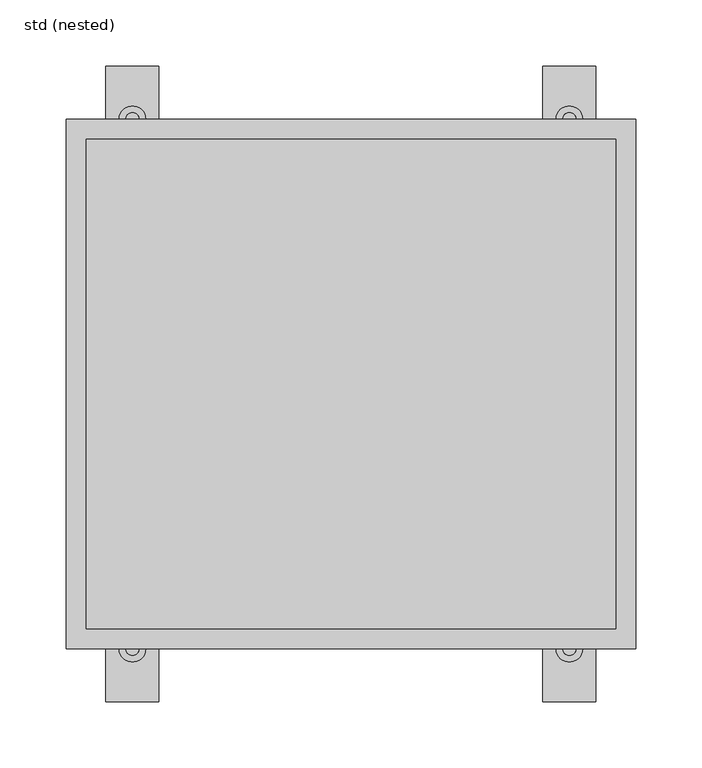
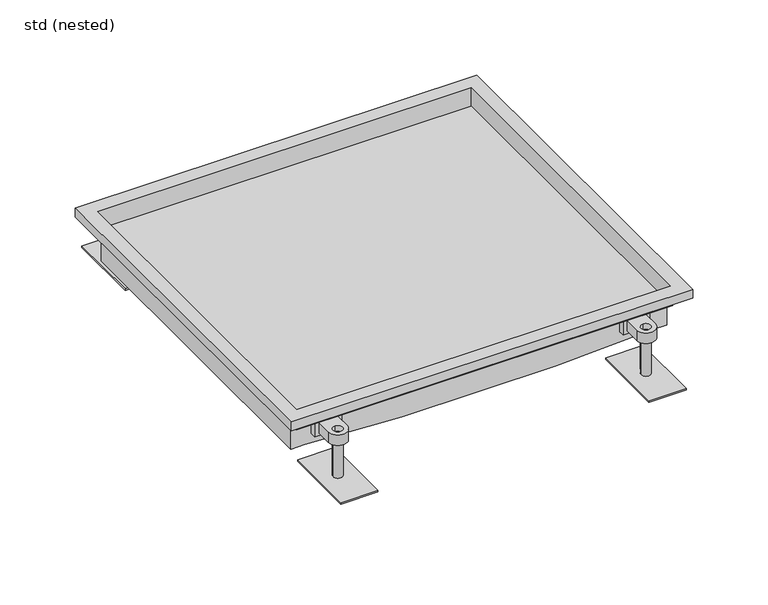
"""IFC4 building model written with IfcOpenShell, lengths in millimetres: sanitary terminal geometry, ZZZ_do not use_PF_ST_UN_hygienic box channel_ACO : std (nested)."""

from ifc_helpers import new_model, si_unit, point, frame, frame_2d, origin, place, context, project, spatial, polyline, circle_curve, trimmed, segment, composite_curve, outline, extrude, faceted_brep, source, transform, mapped, element, save
from ifc_brep_helpers import plane_surface, cylinder_surface, advanced_brep


def std_nested_92ae71c6(model_context):
    return source(origin(), model_context, "Body", "SolidModel", [
        extrude(outline(composite_curve([segment(polyline([(175.0, 182.5), (155.0, 182.5), (155.0, 200.0)]), True, "CONTINUOUS"), segment(trimmed(circle_curve(frame_2d((165.0, 200.0)), 10.0), [point((155.0, 200.0))], [point((175.0, 200.0))], False, "CARTESIAN"), True, "CONTINUOUS"), segment(polyline([(175.0, 200.0), (175.0, 182.5)]), True, "CONTINUOUS")], self_intersect=False), holes=[composite_curve([segment(trimmed(circle_curve(frame_2d((165.0, 200.0)), 5.0), [point((165.0, 195.0))], [point((165.0, 205.0))], True, "CARTESIAN"), True, "CONTINUOUS"), segment(trimmed(circle_curve(frame_2d((165.0, 200.0)), 5.0), [point((165.0, 205.0))], [point((165.0, 195.0))], True, "CARTESIAN"), True, "CONTINUOUS")], self_intersect=False)]), frame((0.0, 0.0, -37.0), z_axis=(0.0, 0.0, 1.0), x_axis=(1.0, 0.0, 0.0)), (0.0, 0.0, 1.0), 12.0),
        advanced_brep(
        [(160.0, 200.0, -31.0), (170.0, 200.0, -31.0), (185.0, 160.0, -79.5), (145.0, 160.0, -79.5), (145.0, 240.0, -79.5), (185.0, 240.0, -79.5), (170.0, 200.0, -77.5), (160.0, 200.0, -77.5), (185.0, 160.0, -77.5), (185.0, 240.0, -77.5), (145.0, 240.0, -77.5), (145.0, 160.0, -77.5)],
        [
            (0, 1, circle_curve(frame((165.0, 200.0, -31.0), z_axis=(0.0, 0.0, 1.0), x_axis=(1.0, 0.0, 0.0)), 5.0)),
            (1, 0, circle_curve(frame((165.0, 200.0, -31.0), z_axis=(0.0, 0.0, 1.0), x_axis=(1.0, 0.0, 0.0)), 5.0)),
            (2, 3),
            (3, 4),
            (4, 5),
            (5, 2),
            (1, 6),
            (6, 7, circle_curve(frame((165.0, 200.0, -77.5), z_axis=(0.0, 0.0, 1.0), x_axis=(1.0, 0.0, 0.0)), 5.0)),
            (7, 0),
            (7, 6, circle_curve(frame((165.0, 200.0, -77.5), z_axis=(0.0, 0.0, 1.0), x_axis=(1.0, 0.0, 0.0)), 5.0)),
            (8, 9),
            (9, 10),
            (10, 11),
            (11, 8),
            (11, 3),
            (2, 8),
            (10, 4),
            (9, 5),
        ],
        [
            plane_surface(frame((170.0, 200.0, -31.0), z_axis=(0.0, 0.0, 1.0), x_axis=(0.0, -1.0, 0.0))),
            plane_surface(frame((170.0, 200.0, -79.5), z_axis=(0.0, 0.0, -1.0), x_axis=(0.0, 1.0, 0.0))),
            cylinder_surface(frame((165.0, 200.0, -79.5), z_axis=(0.0, 0.0, 1.0), x_axis=(1.0, 0.0, 0.0)), 5.0),
            plane_surface(frame((145.0, 160.0, -77.5), z_axis=(0.0, 0.0, 1.0), x_axis=(-1.0, 0.0, 0.0))),
            plane_surface(frame((185.0, 160.0, -77.5), z_axis=(0.0, -1.0, 0.0), x_axis=(0.0, 0.0, -1.0))),
            plane_surface(frame((145.0, 160.0, -77.5), z_axis=(-1.0, 0.0, 0.0), x_axis=(0.0, 0.0, -1.0))),
            plane_surface(frame((145.0, 240.0, -77.5), z_axis=(0.0, 1.0, 0.0), x_axis=(0.0, 0.0, -1.0))),
            plane_surface(frame((185.0, 240.0, -77.5), z_axis=(1.0, 0.0, 0.0), x_axis=(0.0, 0.0, -1.0))),
        ],
        [
            (0, [[1, 2]]),
            (1, [[3, 4, 5, 6]]),
            (2, [[7, 8, 9, -2]]),
            (2, [[-9, 10, -7, -1]]),
            (3, [[11, 12, 13, 14], [-10, -8]]),
            (4, [[15, -3, 16, -14]]),
            (5, [[17, -4, -15, -13]]),
            (6, [[18, -5, -17, -12]]),
            (7, [[-16, -6, -18, -11]]),
        ],
    ),
        extrude(outline(polyline([(179.35, 174.5), (150.65, 174.5), (150.65, 182.5), (179.35, 182.5), (179.35, 174.5)])), frame((0.0, 0.0, -40.0), z_axis=(0.0, 0.0, 1.0), x_axis=(1.0, 0.0, 0.0)), (0.0, 0.0, 1.0), 18.0),
        extrude(outline(composite_curve([segment(polyline([(175.0, -182.5), (175.0, -200.0)]), True, "CONTINUOUS"), segment(trimmed(circle_curve(frame_2d((165.0, -200.0)), 10.0), [point((175.0, -200.0))], [point((155.0, -200.0))], False, "CARTESIAN"), True, "CONTINUOUS"), segment(polyline([(155.0, -200.0), (155.0, -182.5), (175.0, -182.5)]), True, "CONTINUOUS")], self_intersect=False), holes=[composite_curve([segment(trimmed(circle_curve(frame_2d((165.0, -200.0)), 5.0), [point((165.0, -195.0))], [point((165.0, -205.0))], True, "CARTESIAN"), True, "CONTINUOUS"), segment(trimmed(circle_curve(frame_2d((165.0, -200.0)), 5.0), [point((165.0, -205.0))], [point((165.0, -195.0))], True, "CARTESIAN"), True, "CONTINUOUS")], self_intersect=False)]), frame((0.0, 0.0, -37.0), z_axis=(0.0, 0.0, 1.0), x_axis=(1.0, 0.0, 0.0)), (0.0, 0.0, 1.0), 12.0),
        advanced_brep(
        [(160.0, -200.0, -31.0), (170.0, -200.0, -31.0), (185.0, -160.0, -79.5), (185.0, -240.0, -79.5), (145.0, -240.0, -79.5), (145.0, -160.0, -79.5), (160.0, -200.0, -77.5), (170.0, -200.0, -77.5), (185.0, -160.0, -77.5), (145.0, -160.0, -77.5), (145.0, -240.0, -77.5), (185.0, -240.0, -77.5)],
        [
            (0, 1, circle_curve(frame((165.0, -200.0, -31.0), z_axis=(0.0, 0.0, 1.0), x_axis=(1.0, 0.0, 0.0)), 5.0)),
            (1, 0, circle_curve(frame((165.0, -200.0, -31.0), z_axis=(0.0, 0.0, 1.0), x_axis=(1.0, 0.0, 0.0)), 5.0)),
            (2, 3),
            (3, 4),
            (4, 5),
            (5, 2),
            (0, 6),
            (6, 7, circle_curve(frame((165.0, -200.0, -77.5), z_axis=(0.0, 0.0, 1.0), x_axis=(1.0, 0.0, 0.0)), 5.0)),
            (7, 1),
            (7, 6, circle_curve(frame((165.0, -200.0, -77.5), z_axis=(0.0, 0.0, 1.0), x_axis=(1.0, 0.0, 0.0)), 5.0)),
            (8, 9),
            (9, 10),
            (10, 11),
            (11, 8),
            (8, 2),
            (5, 9),
            (4, 10),
            (3, 11),
        ],
        [
            plane_surface(frame((170.0, -200.0, -31.0), z_axis=(0.0, 0.0, 1.0), x_axis=(0.0, 1.0, 0.0))),
            plane_surface(frame((170.0, -200.0, -79.5), z_axis=(0.0, 0.0, -1.0), x_axis=(0.0, -1.0, 0.0))),
            cylinder_surface(frame((165.0, -200.0, -79.5), z_axis=(0.0, 0.0, 1.0), x_axis=(1.0, 0.0, 0.0)), 5.0),
            plane_surface(frame((145.0, -160.0, -77.5), z_axis=(0.0, 0.0, 1.0), x_axis=(-1.0, 0.0, 0.0))),
            plane_surface(frame((185.0, -160.0, -77.5), z_axis=(0.0, 1.0, 0.0), x_axis=(0.0, 0.0, -1.0))),
            plane_surface(frame((145.0, -160.0, -77.5), z_axis=(-1.0, 0.0, 0.0), x_axis=(0.0, 0.0, -1.0))),
            plane_surface(frame((145.0, -240.0, -77.5), z_axis=(0.0, -1.0, 0.0), x_axis=(0.0, 0.0, -1.0))),
            plane_surface(frame((185.0, -240.0, -77.5), z_axis=(1.0, 0.0, 0.0), x_axis=(0.0, 0.0, -1.0))),
        ],
        [
            (0, [[1, 2]]),
            (1, [[3, 4, 5, 6]]),
            (2, [[-1, 7, 8, 9]]),
            (2, [[-2, -9, 10, -7]]),
            (3, [[11, 12, 13, 14], [-8, -10]]),
            (4, [[-11, 15, -6, 16]]),
            (5, [[-12, -16, -5, 17]]),
            (6, [[-13, -17, -4, 18]]),
            (7, [[-14, -18, -3, -15]]),
        ],
    ),
        extrude(outline(polyline([(179.35, -174.5), (179.35, -182.5), (150.65, -182.5), (150.65, -174.5), (179.35, -174.5)])), frame((0.0, 0.0, -40.0), z_axis=(0.0, 0.0, 1.0), x_axis=(1.0, 0.0, 0.0)), (0.0, 0.0, 1.0), 18.0),
        extrude(outline(composite_curve([segment(polyline([(-155.0, 182.5), (-175.0, 182.5), (-175.0, 200.0)]), True, "CONTINUOUS"), segment(trimmed(circle_curve(frame_2d((-165.0, 200.0)), 10.0), [point((-175.0, 200.0))], [point((-155.0, 200.0))], False, "CARTESIAN"), True, "CONTINUOUS"), segment(polyline([(-155.0, 200.0), (-155.0, 182.5)]), True, "CONTINUOUS")], self_intersect=False), holes=[composite_curve([segment(trimmed(circle_curve(frame_2d((-165.0, 200.0)), 5.0), [point((-165.0, 195.0))], [point((-165.0, 205.0))], True, "CARTESIAN"), True, "CONTINUOUS"), segment(trimmed(circle_curve(frame_2d((-165.0, 200.0)), 5.0), [point((-165.0, 205.0))], [point((-165.0, 195.0))], True, "CARTESIAN"), True, "CONTINUOUS")], self_intersect=False)]), frame((0.0, 0.0, -37.0), z_axis=(0.0, 0.0, 1.0), x_axis=(1.0, 0.0, 0.0)), (0.0, 0.0, 1.0), 12.0),
        advanced_brep(
        [(-170.0, 200.0, -31.0), (-160.0, 200.0, -31.0), (-145.0, 160.0, -79.5), (-185.0, 160.0, -79.5), (-185.0, 240.0, -79.5), (-145.0, 240.0, -79.5), (-160.0, 200.0, -77.5), (-170.0, 200.0, -77.5), (-145.0, 160.0, -77.5), (-145.0, 240.0, -77.5), (-185.0, 240.0, -77.5), (-185.0, 160.0, -77.5)],
        [
            (0, 1, circle_curve(frame((-165.0, 200.0, -31.0), z_axis=(0.0, 0.0, 1.0), x_axis=(1.0, 0.0, 0.0)), 5.0)),
            (1, 0, circle_curve(frame((-165.0, 200.0, -31.0), z_axis=(0.0, 0.0, 1.0), x_axis=(1.0, 0.0, 0.0)), 5.0)),
            (2, 3),
            (3, 4),
            (4, 5),
            (5, 2),
            (1, 6),
            (6, 7, circle_curve(frame((-165.0, 200.0, -77.5), z_axis=(0.0, 0.0, 1.0), x_axis=(1.0, 0.0, 0.0)), 5.0)),
            (7, 0),
            (7, 6, circle_curve(frame((-165.0, 200.0, -77.5), z_axis=(0.0, 0.0, 1.0), x_axis=(1.0, 0.0, 0.0)), 5.0)),
            (8, 9),
            (9, 10),
            (10, 11),
            (11, 8),
            (11, 3),
            (2, 8),
            (10, 4),
            (9, 5),
        ],
        [
            plane_surface(frame((-160.0, 200.0, -31.0), z_axis=(0.0, 0.0, 1.0), x_axis=(0.0, -1.0, 0.0))),
            plane_surface(frame((-160.0, 200.0, -79.5), z_axis=(0.0, 0.0, -1.0), x_axis=(0.0, 1.0, 0.0))),
            cylinder_surface(frame((-165.0, 200.0, -79.5), z_axis=(0.0, 0.0, 1.0), x_axis=(1.0, 0.0, 0.0)), 5.0),
            plane_surface(frame((-185.0, 160.0, -77.5), z_axis=(0.0, 0.0, 1.0), x_axis=(-1.0, 0.0, 0.0))),
            plane_surface(frame((-145.0, 160.0, -77.5), z_axis=(0.0, -1.0, 0.0), x_axis=(0.0, 0.0, -1.0))),
            plane_surface(frame((-185.0, 160.0, -77.5), z_axis=(-1.0, 0.0, 0.0), x_axis=(0.0, 0.0, -1.0))),
            plane_surface(frame((-185.0, 240.0, -77.5), z_axis=(0.0, 1.0, 0.0), x_axis=(0.0, 0.0, -1.0))),
            plane_surface(frame((-145.0, 240.0, -77.5), z_axis=(1.0, 0.0, 0.0), x_axis=(0.0, 0.0, -1.0))),
        ],
        [
            (0, [[1, 2]]),
            (1, [[3, 4, 5, 6]]),
            (2, [[7, 8, 9, -2]]),
            (2, [[-9, 10, -7, -1]]),
            (3, [[11, 12, 13, 14], [-10, -8]]),
            (4, [[15, -3, 16, -14]]),
            (5, [[17, -4, -15, -13]]),
            (6, [[18, -5, -17, -12]]),
            (7, [[-16, -6, -18, -11]]),
        ],
    ),
        extrude(outline(polyline([(-150.65, 174.5), (-179.35, 174.5), (-179.35, 182.5), (-150.65, 182.5), (-150.65, 174.5)])), frame((0.0, 0.0, -40.0), z_axis=(0.0, 0.0, 1.0), x_axis=(1.0, 0.0, 0.0)), (0.0, 0.0, 1.0), 18.0),
        extrude(outline(composite_curve([segment(polyline([(-155.0, -182.5), (-155.0, -200.0)]), True, "CONTINUOUS"), segment(trimmed(circle_curve(frame_2d((-165.0, -200.0)), 10.0), [point((-155.0, -200.0))], [point((-175.0, -200.0))], False, "CARTESIAN"), True, "CONTINUOUS"), segment(polyline([(-175.0, -200.0), (-175.0, -182.5), (-155.0, -182.5)]), True, "CONTINUOUS")], self_intersect=False), holes=[composite_curve([segment(trimmed(circle_curve(frame_2d((-165.0, -200.0)), 5.0), [point((-165.0, -195.0))], [point((-165.0, -205.0))], True, "CARTESIAN"), True, "CONTINUOUS"), segment(trimmed(circle_curve(frame_2d((-165.0, -200.0)), 5.0), [point((-165.0, -205.0))], [point((-165.0, -195.0))], True, "CARTESIAN"), True, "CONTINUOUS")], self_intersect=False)]), frame((0.0, 0.0, -37.0), z_axis=(0.0, 0.0, 1.0), x_axis=(1.0, 0.0, 0.0)), (0.0, 0.0, 1.0), 12.0),
        advanced_brep(
        [(-170.0, -200.0, -31.0), (-160.0, -200.0, -31.0), (-145.0, -160.0, -79.5), (-145.0, -240.0, -79.5), (-185.0, -240.0, -79.5), (-185.0, -160.0, -79.5), (-170.0, -200.0, -77.5), (-160.0, -200.0, -77.5), (-145.0, -160.0, -77.5), (-185.0, -160.0, -77.5), (-185.0, -240.0, -77.5), (-145.0, -240.0, -77.5)],
        [
            (0, 1, circle_curve(frame((-165.0, -200.0, -31.0), z_axis=(0.0, 0.0, 1.0), x_axis=(1.0, 0.0, 0.0)), 5.0)),
            (1, 0, circle_curve(frame((-165.0, -200.0, -31.0), z_axis=(0.0, 0.0, 1.0), x_axis=(1.0, 0.0, 0.0)), 5.0)),
            (2, 3),
            (3, 4),
            (4, 5),
            (5, 2),
            (0, 6),
            (6, 7, circle_curve(frame((-165.0, -200.0, -77.5), z_axis=(0.0, 0.0, 1.0), x_axis=(1.0, 0.0, 0.0)), 5.0)),
            (7, 1),
            (7, 6, circle_curve(frame((-165.0, -200.0, -77.5), z_axis=(0.0, 0.0, 1.0), x_axis=(1.0, 0.0, 0.0)), 5.0)),
            (8, 9),
            (9, 10),
            (10, 11),
            (11, 8),
            (8, 2),
            (5, 9),
            (4, 10),
            (3, 11),
        ],
        [
            plane_surface(frame((-160.0, -200.0, -31.0), z_axis=(0.0, 0.0, 1.0), x_axis=(0.0, 1.0, 0.0))),
            plane_surface(frame((-160.0, -200.0, -79.5), z_axis=(0.0, 0.0, -1.0), x_axis=(0.0, -1.0, 0.0))),
            cylinder_surface(frame((-165.0, -200.0, -79.5), z_axis=(0.0, 0.0, 1.0), x_axis=(1.0, 0.0, 0.0)), 5.0),
            plane_surface(frame((-185.0, -160.0, -77.5), z_axis=(0.0, 0.0, 1.0), x_axis=(-1.0, 0.0, 0.0))),
            plane_surface(frame((-145.0, -160.0, -77.5), z_axis=(0.0, 1.0, 0.0), x_axis=(0.0, 0.0, -1.0))),
            plane_surface(frame((-185.0, -160.0, -77.5), z_axis=(-1.0, 0.0, 0.0), x_axis=(0.0, 0.0, -1.0))),
            plane_surface(frame((-185.0, -240.0, -77.5), z_axis=(0.0, -1.0, 0.0), x_axis=(0.0, 0.0, -1.0))),
            plane_surface(frame((-145.0, -240.0, -77.5), z_axis=(1.0, 0.0, 0.0), x_axis=(0.0, 0.0, -1.0))),
        ],
        [
            (0, [[1, 2]]),
            (1, [[3, 4, 5, 6]]),
            (2, [[-1, 7, 8, 9]]),
            (2, [[-2, -9, 10, -7]]),
            (3, [[11, 12, 13, 14], [-8, -10]]),
            (4, [[-11, 15, -6, 16]]),
            (5, [[-12, -16, -5, 17]]),
            (6, [[-13, -17, -4, 18]]),
            (7, [[-14, -18, -3, -15]]),
        ],
    ),
        extrude(outline(polyline([(-150.65, -174.5), (-150.65, -182.5), (-179.35, -182.5), (-179.35, -174.5), (-150.65, -174.5)])), frame((0.0, 0.0, -40.0), z_axis=(0.0, 0.0, 1.0), x_axis=(1.0, 0.0, 0.0)), (0.0, 0.0, 1.0), 18.0),
        faceted_brep([(-200.0, 185.0, -22.0), (-200.0, 185.0, -20.5), (200.0, 185.0, -20.5), (200.0, 185.0, -22.0), (-200.0, -185.0, -20.5), (200.0, -185.0, -20.5), (-200.0, -185.0, -22.0), (200.0, -185.0, -22.0), (-200.0, -176.0, -22.0), (200.0, -176.0, -22.0), (200.0, 176.0, -22.0), (-200.0, 176.0, -22.0), (82.5, -176.0, -55.0), (186.5, -176.0, -50.0), (201.5, -176.0, -50.0), (201.5, -176.0, -22.0), (-201.5, -176.0, -22.0), (-201.5, -176.0, -50.0), (-186.5, -176.0, -50.0), (-82.5, -176.0, -55.0), (82.5, 176.0, -55.0), (186.5, 176.0, -50.0), (-82.5, 176.0, -55.0), (-186.5, 176.0, -50.0), (-201.5, 176.0, -50.0), (-201.5, 176.0, -22.0), (201.5, 176.0, -22.0), (201.5, 176.0, -50.0)], [[[0, 1, 2, 3]], [[1, 4, 5, 2]], [[4, 6, 7, 5]], [[6, 8, 9, 7]], [[10, 11, 0, 3]], [[12, 13, 14, 15, 9, 8, 16, 17, 18, 19]], [[13, 12, 20, 21]], [[21, 20, 22, 23, 24, 25, 11, 10, 26, 27]], [[22, 20, 12, 19]], [[19, 18, 23, 22]], [[24, 17, 16, 25]], [[25, 16, 8, 11]], [[17, 24, 23, 18]], [[4, 1, 0, 11, 8, 6]], [[5, 7, 9, 10, 3, 2]], [[26, 15, 14, 27]], [[15, 26, 10, 9]], [[27, 14, 13, 21]]]),
        advanced_brep(
        [(-71.3, 0.0, -121.5), (71.3, 0.0, -121.5), (0.0, 0.0, -121.5), (-71.3, 0.0, -60.0), (71.3, 0.0, -60.0), (-82.5, 0.0, -60.0), (82.5, 0.0, -60.0), (-82.5, 0.0, -55.0), (82.5, 0.0, -55.0), (0.0, 0.0, -55.0)],
        [
            (0, 1, circle_curve(frame((0.0, 0.0, -121.5), z_axis=(0.0, 0.0, -1.0), x_axis=(1.0, 0.0, 0.0)), 71.3)),
            (1, 2),
            (2, 0),
            (1, 0, circle_curve(frame((0.0, 0.0, -121.5), z_axis=(0.0, 0.0, -1.0), x_axis=(1.0, 0.0, 0.0)), 71.3)),
            (3, 4, circle_curve(frame((0.0, 0.0, -60.0), z_axis=(0.0, 0.0, -1.0), x_axis=(1.0, 0.0, 0.0)), 71.3)),
            (4, 1),
            (0, 3),
            (4, 3, circle_curve(frame((0.0, 0.0, -60.0), z_axis=(0.0, 0.0, -1.0), x_axis=(1.0, 0.0, 0.0)), 71.3)),
            (5, 6, circle_curve(frame((0.0, 0.0, -60.0), z_axis=(0.0, 0.0, -1.0), x_axis=(1.0, 0.0, 0.0)), 82.5)),
            (6, 4),
            (3, 5),
            (6, 5, circle_curve(frame((0.0, 0.0, -60.0), z_axis=(0.0, 0.0, -1.0), x_axis=(1.0, 0.0, 0.0)), 82.5)),
            (7, 8, circle_curve(frame((0.0, 0.0, -55.0), z_axis=(0.0, 0.0, -1.0), x_axis=(1.0, 0.0, 0.0)), 82.5)),
            (8, 6),
            (5, 7),
            (8, 7, circle_curve(frame((0.0, 0.0, -55.0), z_axis=(0.0, 0.0, -1.0), x_axis=(1.0, 0.0, 0.0)), 82.5)),
            (9, 8),
            (7, 9),
        ],
        [
            plane_surface(frame((0.0, 0.0, -121.5), z_axis=(0.0, 0.0, -1.0), x_axis=(1.0, 0.0, 0.0))),
            cylinder_surface(frame((0.0, 0.0, -130.0), z_axis=(0.0, 0.0, 1.0), x_axis=(1.0, 0.0, 0.0)), 71.3),
            plane_surface(frame((0.0, 0.0, -60.0), z_axis=(0.0, 0.0, -1.0), x_axis=(1.0, 0.0, 0.0))),
            cylinder_surface(frame((0.0, 0.0, -130.0), z_axis=(0.0, 0.0, 1.0), x_axis=(1.0, 0.0, 0.0)), 82.5),
            plane_surface(frame((0.0, 0.0, -55.0), z_axis=(0.0, 0.0, 1.0), x_axis=(1.0, 0.0, 0.0))),
        ],
        [
            (0, [[1, 2, 3]]),
            (0, [[4, -3, -2]]),
            (1, [[5, 6, -1, 7]]),
            (1, [[8, -7, -4, -6]]),
            (2, [[9, 10, -5, 11]]),
            (2, [[12, -11, -8, -10]]),
            (3, [[13, 14, -9, 15]]),
            (3, [[16, -15, -12, -14]]),
            (4, [[17, -13, 18]]),
            (4, [[-18, -16, -17]]),
        ],
    ),
        faceted_brep([(215.0, 200.0, -10.0), (215.0, 200.0, 0.0), (215.0, -200.0, 0.0), (215.0, -200.0, -10.0), (201.5, 186.5, -22.0), (201.5, 186.5, -1.5), (201.5, -186.5, -1.5), (201.5, -186.5, -22.0), (200.0, 185.0, 0.0), (200.0, 185.0, -22.0), (200.0, -185.0, -22.0), (200.0, -185.0, 0.0), (-215.0, -200.0, 0.0), (-215.0, -200.0, -10.0), (-201.5, -186.5, -1.5), (-201.5, -186.5, -22.0), (-200.0, -185.0, -22.0), (-200.0, -185.0, 0.0), (-215.0, 200.0, 0.0), (-215.0, 200.0, -10.0), (-201.5, 186.5, -1.5), (-201.5, 186.5, -22.0), (-200.0, 185.0, -22.0), (-200.0, 185.0, 0.0), (213.5, 198.5, -10.0), (-213.5, 198.5, -10.0), (-213.5, -198.5, -10.0), (213.5, -198.5, -10.0), (213.5, 198.5, -1.5), (213.5, -198.5, -1.5), (-213.5, -198.5, -1.5), (-213.5, 198.5, -1.5)], [[[0, 1, 2, 3]], [[4, 5, 6, 7]], [[8, 9, 10, 11]], [[3, 2, 12, 13]], [[7, 6, 14, 15]], [[11, 10, 16, 17]], [[13, 12, 18, 19]], [[15, 14, 20, 21]], [[17, 16, 22, 23]], [[19, 18, 1, 0]], [[3, 13, 19, 0], [24, 25, 26, 27]], [[21, 20, 5, 4]], [[7, 15, 21, 4], [9, 22, 16, 10]], [[23, 22, 9, 8]], [[1, 18, 12, 2], [11, 17, 23, 8]], [[28, 24, 27, 29]], [[29, 27, 26, 30]], [[30, 26, 25, 31]], [[31, 25, 24, 28]], [[29, 30, 31, 28], [5, 20, 14, 6]]]),
    ])


if __name__ == "__main__":
    model = new_model("IFC4")
    model_context = context("Model", 3, world=origin())
    ifc_project = project(units=[si_unit("LENGTHUNIT", "METRE", prefix="MILLI")], contexts=[model_context])
    site = spatial("IfcSite", under=ifc_project)
    building = spatial("IfcBuilding", under=site)
    placement = place(None, origin())
    std_nested_shape = std_nested_92ae71c6(model_context)
    element("IfcSanitaryTerminal", 1, ObjectType="ZZZ_do not use_PF_ST_UN_hygienic box channel_ACO : std (nested)", at=placement, inside=building, context=model_context, shape_type="MappedRepresentation", body=[
        mapped(std_nested_shape, transform((0.0, 0.0, 0.0), x_axis=(1.0, 0.0, 0.0), y_axis=(0.0, 1.0, 0.0), z_axis=(0.0, 0.0, 1.0))),
    ])
    save(model, "model.ifc")
